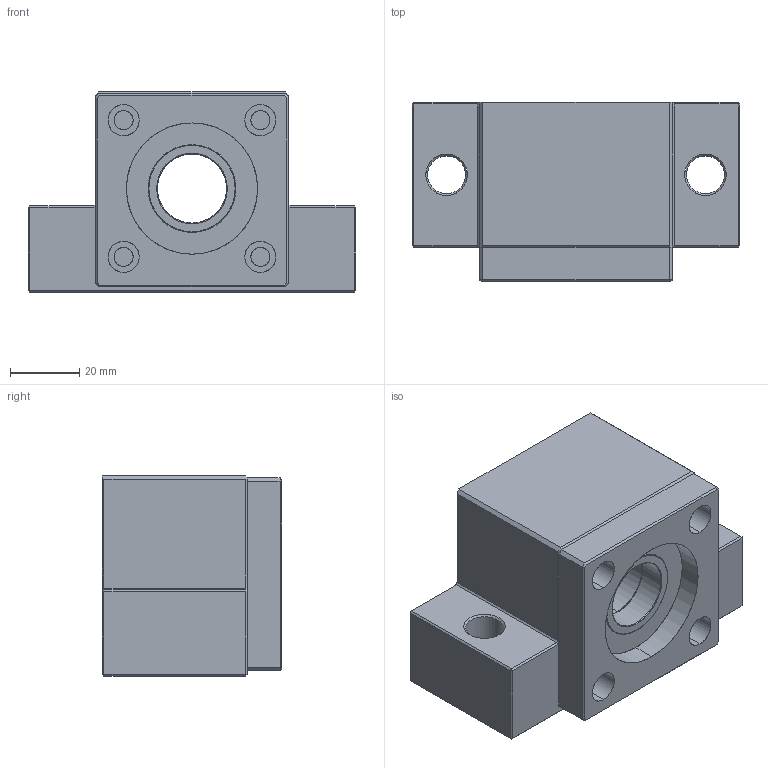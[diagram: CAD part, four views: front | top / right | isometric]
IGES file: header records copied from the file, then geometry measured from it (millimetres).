
Start section: SolidWorks IGES file using analytic representation for surfaces
Global section: file name: E:\同创达图纸\产品示意图\3D选型图\支撑座\EK系列\EK20.IGS; native system: SolidWorks 2012; preprocessor: SolidWorks 2012; author: gao; date: 130702.201153; units: millimetre
Bounding box: 95 x 52 x 58 mm (x, y, z)
Surface area: 32717.8 mm2 (no closed solid volume)
Topology: 0 solids, 0 shells, 144 faces, 1880 edges, 1880 vertices
Faces by surface type: bspline 82, revolution 62
